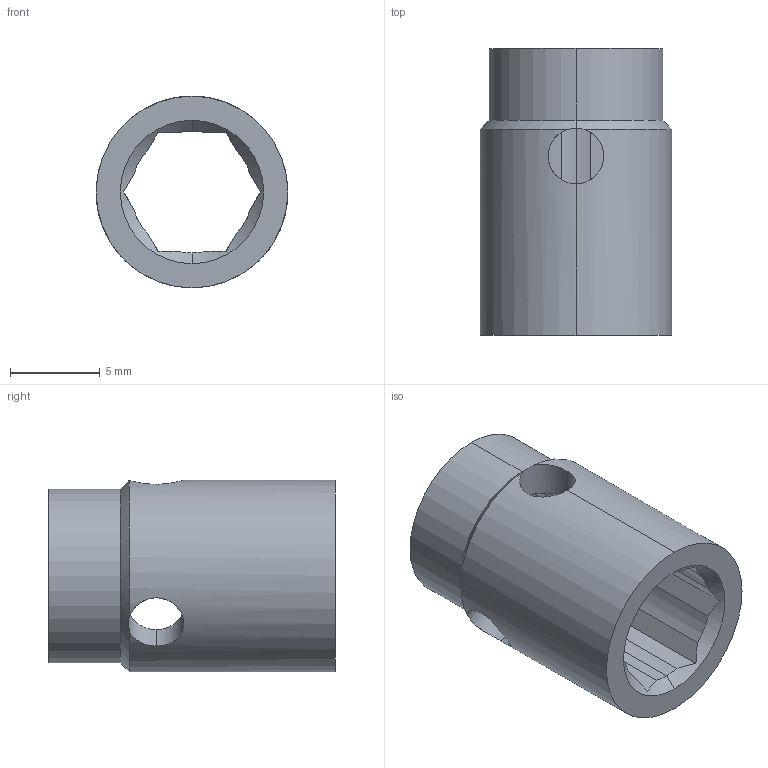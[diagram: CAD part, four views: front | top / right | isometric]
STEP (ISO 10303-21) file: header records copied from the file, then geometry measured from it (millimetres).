
FILE_DESCRIPTION (( 'STEP AP203' ), '1' );
FILE_NAME ('09308801.STEP', '2012-10-22T12:16:05', ( '' ), ( '' ), 'SwSTEP 2.0', 'SolidWorks 2012', '' );
FILE_SCHEMA (( 'CONFIG_CONTROL_DESIGN' ));
Length unit declared in the file: millimetre
Products named in the file (1): 09308801
Bounding box: 10.7 x 16 x 10.7 mm (x, y, z)
Volume: 706.1 mm3; surface area: 982.7 mm2
Topology: 1 solids, 1 shells, 40 faces, 127 edges, 83 vertices
Faces by surface type: cylinder 20, plane 14, cone 6
Entity records: 1718 total; most frequent: CARTESIAN_POINT 551, ORIENTED_EDGE 254, DIRECTION 207, EDGE_CURVE 127, VERTEX_POINT 83, AXIS2_PLACEMENT_3D 83, B_SPLINE_CURVE_WITH_KNOTS 44, EDGE_LOOP 42
